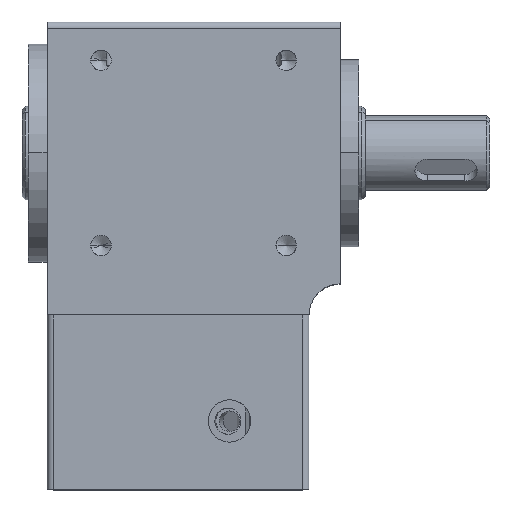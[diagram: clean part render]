
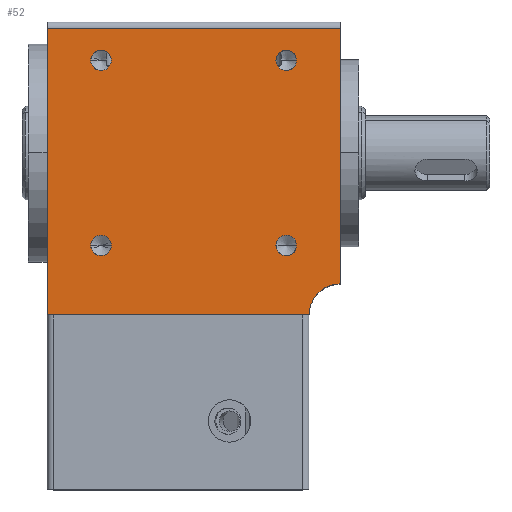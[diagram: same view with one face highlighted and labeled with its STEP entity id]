
A CAD part, top view. The second image highlights one B-rep face of the part: STEP entity #52.
In plain terms, the highlighted planar face has unit normal (0, 0, 1).
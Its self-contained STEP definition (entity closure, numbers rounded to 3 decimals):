
#52 = ADVANCED_FACE ( 'NONE', ( #5087, #11107, #17152, #29198, #28509 ), #10047, .F. ) ;
#58 = CARTESIAN_POINT ( 'NONE',  ( 53., 22.5, 21. ) ) ;
#666 = DIRECTION ( 'NONE',  ( 1., 0., 0. ) ) ;
#686 = CARTESIAN_POINT ( 'NONE',  ( 41.349, -12.349, 21. ) ) ;
#1508 = ORIENTED_EDGE ( 'NONE', *, *, #21552, .F. ) ;
#1573 = EDGE_CURVE ( 'NONE', #13855, #15068, #11453, .T. ) ;
#1675 = DIRECTION ( 'NONE',  ( 0., 0., 1. ) ) ;
#1941 = ORIENTED_EDGE ( 'NONE', *, *, #27362, .F. ) ;
#2964 = DIRECTION ( 'NONE',  ( 1., 0., 0. ) ) ;
#3154 = DIRECTION ( 'NONE',  ( 0., 0., 1. ) ) ;
#3278 = CARTESIAN_POINT ( 'NONE',  ( 39.699, -12.349, 21. ) ) ;
#3402 = EDGE_CURVE ( 'NONE', #24238, #13202, #28076, .T. ) ;
#3449 = VERTEX_POINT ( 'NONE', #3278 ) ;
#4634 = EDGE_LOOP ( 'NONE', ( #4809, #17043, #1508, #14912, #17719 ) ) ;
#4742 = VERTEX_POINT ( 'NONE', #5862 ) ;
#4809 = ORIENTED_EDGE ( 'NONE', *, *, #15597, .F. ) ;
#4885 = ORIENTED_EDGE ( 'NONE', *, *, #18137, .F. ) ;
#5086 = AXIS2_PLACEMENT_3D ( 'NONE', #11208, #27065, #13478 ) ;
#5087 = FACE_BOUND ( 'NONE', #16687, .T. ) ;
#5436 = VECTOR ( 'NONE', #6886, 1000. ) ;
#5579 = CARTESIAN_POINT ( 'NONE',  ( 39.699, 17.349, 21. ) ) ;
#5862 = CARTESIAN_POINT ( 'NONE',  ( 13.301, 17.349, 21. ) ) ;
#6259 = DIRECTION ( 'NONE',  ( 0., 0., 1. ) ) ;
#6840 = DIRECTION ( 'NONE',  ( 0., 1., 0. ) ) ;
#6886 = DIRECTION ( 'NONE',  ( -1., 0., 0. ) ) ;
#6991 = CARTESIAN_POINT ( 'NONE',  ( 10.001, -12.349, 21. ) ) ;
#7508 = ORIENTED_EDGE ( 'NONE', *, *, #9754, .F. ) ;
#7555 = VERTEX_POINT ( 'NONE', #14149 ) ;
#7634 = CARTESIAN_POINT ( 'NONE',  ( 53., -23.5, 21. ) ) ;
#7953 = AXIS2_PLACEMENT_3D ( 'NONE', #13303, #29177, #15588 ) ;
#9057 = CIRCLE ( 'NONE', #7953, 1.65 ) ;
#9361 = CIRCLE ( 'NONE', #28186, 1.65 ) ;
#9584 = ORIENTED_EDGE ( 'NONE', *, *, #15304, .F. ) ;
#9754 = EDGE_CURVE ( 'NONE', #4742, #23302, #17091, .T. ) ;
#9755 = CARTESIAN_POINT ( 'NONE',  ( 3., 22.5, 21. ) ) ;
#9824 = DIRECTION ( 'NONE',  ( 0., -1., 0. ) ) ;
#9998 = ORIENTED_EDGE ( 'NONE', *, *, #28088, .F. ) ;
#10009 = CARTESIAN_POINT ( 'NONE',  ( 53., -23.5, 21. ) ) ;
#10047 = PLANE ( 'NONE',  #13058 ) ;
#10141 = VECTOR ( 'NONE', #9824, 1000. ) ;
#10176 = DIRECTION ( 'NONE',  ( -1., 0., 0. ) ) ;
#10371 = CARTESIAN_POINT ( 'NONE',  ( 50., -23.5, 21. ) ) ;
#11107 = FACE_BOUND ( 'NONE', #12468, .T. ) ;
#11208 = CARTESIAN_POINT ( 'NONE',  ( 11.651, -12.349, 21. ) ) ;
#11453 = LINE ( 'NONE', #58, #5436 ) ;
#11566 = AXIS2_PLACEMENT_3D ( 'NONE', #19845, #6259, #22116 ) ;
#11765 = VERTEX_POINT ( 'NONE', #23648 ) ;
#12468 = EDGE_LOOP ( 'NONE', ( #9998, #4885 ) ) ;
#12645 = DIRECTION ( 'NONE',  ( 1., 0., 0. ) ) ;
#13058 = AXIS2_PLACEMENT_3D ( 'NONE', #10009, #14511, #10176 ) ;
#13202 = VERTEX_POINT ( 'NONE', #16913 ) ;
#13303 = CARTESIAN_POINT ( 'NONE',  ( 41.349, 17.349, 21. ) ) ;
#13478 = DIRECTION ( 'NONE',  ( 1., 0., 0. ) ) ;
#13519 = DIRECTION ( 'NONE',  ( 0., 0., 1. ) ) ;
#13855 = VERTEX_POINT ( 'NONE', #24483 ) ;
#14078 = CARTESIAN_POINT ( 'NONE',  ( 10.001, 17.349, 21. ) ) ;
#14149 = CARTESIAN_POINT ( 'NONE',  ( 13.301, -12.349, 21. ) ) ;
#14267 = DIRECTION ( 'NONE',  ( 0., 0., 1. ) ) ;
#14397 = DIRECTION ( 'NONE',  ( -1., 0., 0. ) ) ;
#14511 = DIRECTION ( 'NONE',  ( 0., 0., -1. ) ) ;
#14683 = EDGE_LOOP ( 'NONE', ( #28237, #22500 ) ) ;
#14845 = ORIENTED_EDGE ( 'NONE', *, *, #25109, .F. ) ;
#14912 = ORIENTED_EDGE ( 'NONE', *, *, #3402, .F. ) ;
#15068 = VERTEX_POINT ( 'NONE', #9755 ) ;
#15263 = CARTESIAN_POINT ( 'NONE',  ( 41.349, 17.349, 21. ) ) ;
#15304 = EDGE_CURVE ( 'NONE', #27373, #24424, #9057, .T. ) ;
#15588 = DIRECTION ( 'NONE',  ( 1., 0., 0. ) ) ;
#15597 = EDGE_CURVE ( 'NONE', #13855, #26993, #28243, .T. ) ;
#16565 = DIRECTION ( 'NONE',  ( 0., 0., 1. ) ) ;
#16599 = CIRCLE ( 'NONE', #21277, 1.65 ) ;
#16687 = EDGE_LOOP ( 'NONE', ( #9584, #1941 ) ) ;
#16751 = CARTESIAN_POINT ( 'NONE',  ( 11.651, 17.349, 21. ) ) ;
#16913 = CARTESIAN_POINT ( 'NONE',  ( 3., -23.5, 21. ) ) ;
#17043 = ORIENTED_EDGE ( 'NONE', *, *, #1573, .T. ) ;
#17091 = CIRCLE ( 'NONE', #11566, 1.65 ) ;
#17152 = FACE_BOUND ( 'NONE', #14683, .T. ) ;
#17162 = VECTOR ( 'NONE', #6840, 1000. ) ;
#17542 = DIRECTION ( 'NONE',  ( 1., 0., 0. ) ) ;
#17719 = ORIENTED_EDGE ( 'NONE', *, *, #18832, .F. ) ;
#18137 = EDGE_CURVE ( 'NONE', #3449, #11765, #27871, .T. ) ;
#18818 = CIRCLE ( 'NONE', #5086, 1.65 ) ;
#18832 = EDGE_CURVE ( 'NONE', #26993, #24238, #25361, .T. ) ;
#18877 = AXIS2_PLACEMENT_3D ( 'NONE', #10371, #26232, #12645 ) ;
#19019 = DIRECTION ( 'NONE',  ( 1., 0., 0. ) ) ;
#19574 = CIRCLE ( 'NONE', #20142, 1.65 ) ;
#19845 = CARTESIAN_POINT ( 'NONE',  ( 11.651, 17.349, 21. ) ) ;
#19995 = AXIS2_PLACEMENT_3D ( 'NONE', #686, #16565, #2964 ) ;
#20142 = AXIS2_PLACEMENT_3D ( 'NONE', #27106, #13519, #29394 ) ;
#20593 = EDGE_CURVE ( 'NONE', #27616, #7555, #9361, .T. ) ;
#20647 = CARTESIAN_POINT ( 'NONE',  ( 45., -23.5, 21. ) ) ;
#21277 = AXIS2_PLACEMENT_3D ( 'NONE', #15263, #1675, #17542 ) ;
#21316 = VECTOR ( 'NONE', #14397, 1000. ) ;
#21552 = EDGE_CURVE ( 'NONE', #13202, #15068, #29206, .T. ) ;
#22116 = DIRECTION ( 'NONE',  ( 1., 0., 0. ) ) ;
#22193 = AXIS2_PLACEMENT_3D ( 'NONE', #16751, #3154, #19019 ) ;
#22500 = ORIENTED_EDGE ( 'NONE', *, *, #20593, .F. ) ;
#22895 = EDGE_LOOP ( 'NONE', ( #7508, #14845 ) ) ;
#23302 = VERTEX_POINT ( 'NONE', #14078 ) ;
#23418 = CIRCLE ( 'NONE', #22193, 1.65 ) ;
#23419 = CARTESIAN_POINT ( 'NONE',  ( 50., -23.5, 21. ) ) ;
#23648 = CARTESIAN_POINT ( 'NONE',  ( 42.999, -12.349, 21. ) ) ;
#24238 = VERTEX_POINT ( 'NONE', #20647 ) ;
#24424 = VERTEX_POINT ( 'NONE', #5579 ) ;
#24483 = CARTESIAN_POINT ( 'NONE',  ( 50., 22.5, 21. ) ) ;
#24888 = EDGE_CURVE ( 'NONE', #7555, #27616, #18818, .T. ) ;
#25109 = EDGE_CURVE ( 'NONE', #23302, #4742, #23418, .T. ) ;
#25361 = CIRCLE ( 'NONE', #18877, 5. ) ;
#26232 = DIRECTION ( 'NONE',  ( 0., 0., 1. ) ) ;
#26993 = VERTEX_POINT ( 'NONE', #27078 ) ;
#27065 = DIRECTION ( 'NONE',  ( 0., 0., 1. ) ) ;
#27078 = CARTESIAN_POINT ( 'NONE',  ( 50., -18.5, 21. ) ) ;
#27106 = CARTESIAN_POINT ( 'NONE',  ( 41.349, -12.349, 21. ) ) ;
#27279 = CARTESIAN_POINT ( 'NONE',  ( 3., -23.5, 21. ) ) ;
#27362 = EDGE_CURVE ( 'NONE', #24424, #27373, #16599, .T. ) ;
#27373 = VERTEX_POINT ( 'NONE', #28860 ) ;
#27616 = VERTEX_POINT ( 'NONE', #6991 ) ;
#27842 = CARTESIAN_POINT ( 'NONE',  ( 11.651, -12.349, 21. ) ) ;
#27871 = CIRCLE ( 'NONE', #19995, 1.65 ) ;
#28076 = LINE ( 'NONE', #7634, #21316 ) ;
#28088 = EDGE_CURVE ( 'NONE', #11765, #3449, #19574, .T. ) ;
#28186 = AXIS2_PLACEMENT_3D ( 'NONE', #27842, #14267, #666 ) ;
#28237 = ORIENTED_EDGE ( 'NONE', *, *, #24888, .F. ) ;
#28243 = LINE ( 'NONE', #23419, #10141 ) ;
#28509 = FACE_OUTER_BOUND ( 'NONE', #4634, .T. ) ;
#28860 = CARTESIAN_POINT ( 'NONE',  ( 42.999, 17.349, 21. ) ) ;
#29177 = DIRECTION ( 'NONE',  ( 0., 0., 1. ) ) ;
#29198 = FACE_BOUND ( 'NONE', #22895, .T. ) ;
#29206 = LINE ( 'NONE', #27279, #17162 ) ;
#29394 = DIRECTION ( 'NONE',  ( 1., 0., 0. ) ) ;
